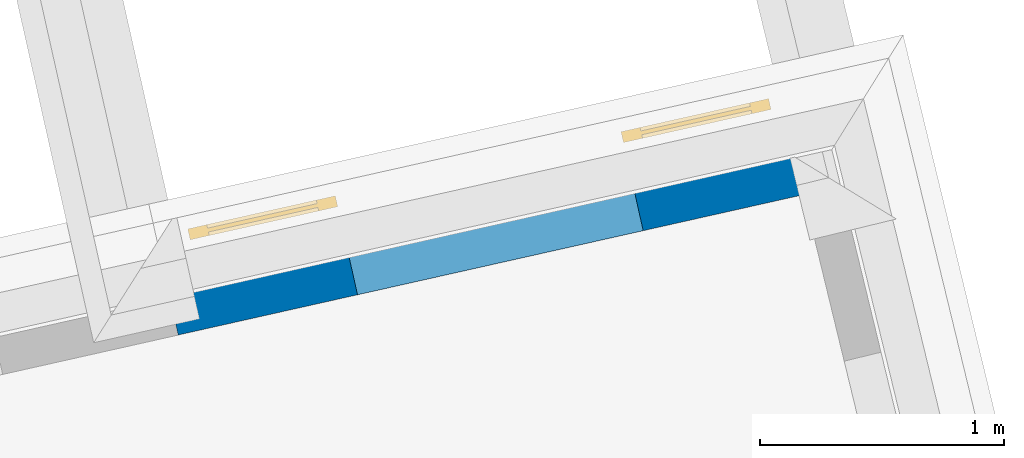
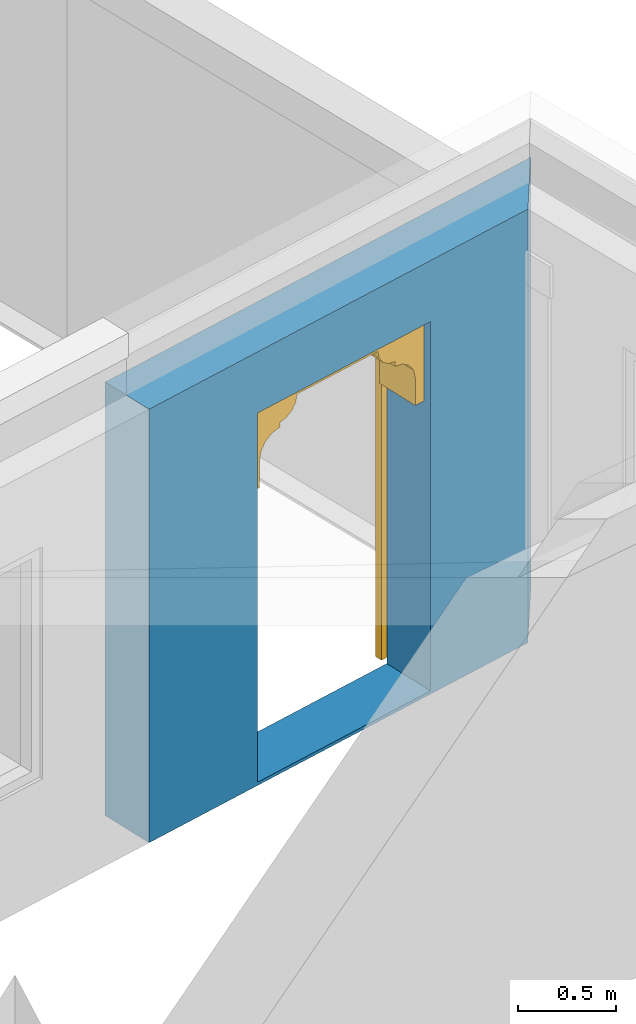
# One storey, part 7 of 15: 1 door, 1 wall, 1 opening.
"""IFC4 building model written with IfcOpenShell, lengths in metres."""

from ifc_helpers import new_model, si_unit, frame, origin, origin_with_axes, place, context, subcontext, project, spatial, polyline, outline, extrude, faceted_brep, source, transform, mapped, material, layer, layer_set, layer_usage, type_object, type_shapes, element, fill, save


model = new_model("IFC4")

# Units and contexts
model_context = context("Model", 3, world=origin_with_axes())
body_context = subcontext(model_context, "Body", "Model", "MODEL_VIEW")
ifc_project = project(units=[si_unit("PLANEANGLEUNIT", "RADIAN"), si_unit("MASSUNIT", "GRAM", prefix="KILO"), si_unit("FORCEUNIT", "NEWTON", prefix="KILO"), si_unit("LENGTHUNIT", "METRE"), si_unit("AREAUNIT", "SQUARE_METRE"), si_unit("VOLUMEUNIT", "CUBIC_METRE")], contexts=[model_context, model_context])

# Site, building, storey
site_placement = place(None, origin_with_axes())
site = spatial("IfcSite", under=ifc_project, at=site_placement, Name="Site plot-10", CompositionType="ELEMENT")
building_placement = place(None, origin_with_axes())
building = spatial("IfcBuilding", under=site, at=building_placement, Name="Building plot-10", CompositionType="ELEMENT")
storey_placement = place(None, frame((0.0, 0.0, 2.7), z_axis=(0.0, 0.0, 1.0), x_axis=(1.0, 0.0, 0.0)))
storey = spatial("IfcBuildingStorey", under=building, at=storey_placement, Name="plot-10 1", CompositionType="ELEMENT", Elevation=2.7)

# Wall, opening, door
ifc_material = material(Name="Masonry")
ifc_layer = layer(ifc_material, 0.33, ventilated=False)
ifc_layer_set = layer_set([ifc_layer], Name="exterior_0.08_0.25")
ifc_layer_usage = layer_usage(ifc_layer_set, "AXIS2", "POSITIVE", -0.25)
wall_type = type_object("IfcWallType", Name="exterior_0.08_0.25", PredefinedType="SOLIDWALL", material=ifc_layer_set)
wall_placement = place(storey_placement, frame((-15.1584362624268, 11.9639737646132, 0.0), z_axis=(0.0, 0.0, 1.0), x_axis=(-0.97574155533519, -0.218925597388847, 0.0)))
wall = element("IfcWall", 1, at=wall_placement, inside=storey, type_object=wall_type, material=ifc_layer_usage, Name="exterior", context=body_context, shape_type="SweptSolid", body=[
    extrude(outline(polyline([(0.078635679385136, 0.0800000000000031), (-0.245736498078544, -0.249999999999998), (2.7066355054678, -0.249999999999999), (2.7066355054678, 0.0800000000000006), (0.078635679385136, 0.0800000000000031)])), origin_with_axes(), (0.0, 0.0, 1.0), 2.7),
])
opening_placement = place(wall_placement, frame((0.7533177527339, 0.0, 0.02)))
opening = element("IfcOpeningElement", 2, at=opening_placement, cuts=wall, Name="My Opening", ObjectType="Opening", context=body_context, shape_type="SweptSolid", body=[
    extrude(outline(polyline([(0.0, -0.270000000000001), (1.2, -0.27), (1.2, 1.1), (7.7715611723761e-16, 1.1), (0.0, -0.270000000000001)])), origin_with_axes(), (0.0, 0.0, 1.0), 2.3),
])
door_type = type_object("IfcDoorType", Name="arch-1200x2300", OperationType="SINGLE_SWING_LEFT", PredefinedType="NOTDEFINED")
shared_shape = source(origin(), body_context, "Body", "Brep", [
    faceted_brep([(-0.08, -0.02, 0.08), (-0.08, -0.02, 0.0), (-0.54, -0.02, 0.0), (-0.54, -0.02, 0.08), (-0.62, -0.02, 0.0), (-0.62, -0.02, 0.08), (-0.54, -0.035, 0.08), (-0.08, -0.035, 0.08), (0.0, -0.02, 0.08), (0.0, -0.02, 0.0), (-0.08, -0.066, 0.0), (-0.54, -0.066, 0.0), (-0.62, -0.066, 0.0), (-0.62, -0.066, 0.08), (-0.54, -0.02, 0.743333), (-0.62, -0.02, 0.743333), (-0.54, -0.035, 0.743333), (-0.08, -0.035, 0.743333), (-0.08, -0.02, 0.743333), (0.0, -0.02, 0.743333), (0.0, -0.066, 0.08), (0.0, -0.066, 0.0), (-0.54, -0.066, 0.08), (-0.08, -0.066, 0.08), (-0.62, -0.066, 0.743333), (-0.54, -0.02, 0.823333), (-0.62, -0.02, 0.823333), (0.0, -0.066, 0.743333), (0.0, -0.02, 0.823333), (-0.08, -0.02, 0.823333), (-0.08, -0.051, 0.08), (-0.54, -0.051, 0.08), (-0.54, -0.066, 0.743333), (-0.62, -0.066, 0.823333), (-0.54, -0.02, 1.486667), (-0.62, -0.02, 1.486667), (0.0, -0.066, 0.823333), (-0.08, -0.066, 0.743333), (0.0, -0.02, 1.486667), (-0.08, -0.02, 1.486667), (-0.08, -0.051, 0.743333), (-0.54, -0.051, 0.743333), (-0.54, -0.066, 0.823333), (-0.62, -0.066, 1.486667), (-0.54, -0.035, 0.823333), (-0.08, -0.035, 0.823333), (-0.54, -0.035, 1.486667), (-0.54, -0.02, 1.566667), (-0.62, -0.02, 1.566667), (0.0, -0.066, 1.486667), (-0.08, -0.066, 0.823333), (-0.08, -0.035, 1.486667), (0.0, -0.02, 1.566667), (-0.08, -0.02, 1.566667), (-0.54, -0.066, 1.486667), (-0.62, -0.066, 1.566667), (-0.54, -0.02, 2.23), (-0.62, -0.02, 2.23), (0.0, -0.066, 1.566667), (-0.08, -0.066, 1.486667), (0.0, -0.02, 2.23), (-0.08, -0.02, 2.23), (-0.08, -0.051, 0.823333), (-0.54, -0.051, 0.823333), (-0.54, -0.051, 1.486667), (-0.54, -0.066, 1.566667), (-0.62, -0.066, 2.23), (-0.54, -0.035, 1.566667), (-0.08, -0.035, 1.566667), (-0.54, -0.035, 2.23), (-0.54, -0.02, 2.31), (-0.62, -0.02, 2.31), (0.0, -0.066, 2.23), (-0.08, -0.066, 1.566667), (-0.08, -0.051, 1.486667), (-0.08, -0.035, 2.23), (0.0, -0.02, 2.31), (-0.08, -0.02, 2.31), (-0.54, -0.066, 2.23), (-0.62, -0.066, 2.31), (-0.54, -0.066, 2.31), (0.0, -0.066, 2.31), (-0.08, -0.066, 2.23), (-0.08, -0.066, 2.31), (-0.08, -0.051, 1.566667), (-0.54, -0.051, 1.566667), (-0.54, -0.051, 2.23), (-0.08, -0.051, 2.23), (1.74, -0.02, 0.08), (1.74, -0.02, 0.0), (1.28, -0.02, 0.0), (1.28, -0.02, 0.08), (1.82, -0.02, 0.08), (1.82, -0.02, 0.0), (1.28, -0.035, 0.08), (1.74, -0.035, 0.08), (1.2, -0.02, 0.0), (1.2, -0.02, 0.08), (1.74, -0.066, 0.0), (1.28, -0.066, 0.0), (1.82, -0.066, 0.08), (1.82, -0.066, 0.0), (1.82, -0.02, 0.743333), (1.74, -0.02, 0.743333), (1.74, -0.035, 0.743333), (1.28, -0.035, 0.743333), (1.28, -0.02, 0.743333), (1.2, -0.02, 0.743333), (1.2, -0.066, 0.0), (1.2, -0.066, 0.08), (1.28, -0.066, 0.08), (1.74, -0.066, 0.08), (1.82, -0.066, 0.743333), (1.82, -0.02, 0.823333), (1.74, -0.02, 0.823333), (1.2, -0.066, 0.743333), (1.28, -0.02, 0.823333), (1.2, -0.02, 0.823333), (1.74, -0.051, 0.08), (1.28, -0.051, 0.08), (1.74, -0.066, 0.743333), (1.82, -0.066, 0.823333), (1.82, -0.02, 1.486667), (1.74, -0.02, 1.486667), (1.2, -0.066, 0.823333), (1.28, -0.066, 0.743333), (1.28, -0.02, 1.486667), (1.2, -0.02, 1.486667), (1.28, -0.051, 0.743333), (1.74, -0.051, 0.743333), (1.74, -0.066, 0.823333), (1.82, -0.066, 1.486667), (1.28, -0.035, 0.823333), (1.74, -0.035, 0.823333), (1.74, -0.035, 1.486667), (1.82, -0.02, 1.566667), (1.74, -0.02, 1.566667), (1.2, -0.066, 1.486667), (1.28, -0.066, 0.823333), (1.28, -0.035, 1.486667), (1.28, -0.02, 1.566667), (1.2, -0.02, 1.566667), (1.74, -0.066, 1.486667), (1.82, -0.066, 1.566667), (1.82, -0.02, 2.23), (1.74, -0.02, 2.23), (1.2, -0.066, 1.566667), (1.28, -0.066, 1.486667), (1.28, -0.02, 2.23), (1.2, -0.02, 2.23), (1.74, -0.051, 0.823333), (1.28, -0.051, 0.823333), (1.74, -0.051, 1.486667), (1.74, -0.066, 1.566667), (1.82, -0.066, 2.23), (1.28, -0.035, 1.566667), (1.74, -0.035, 1.566667), (1.74, -0.035, 2.23), (1.82, -0.02, 2.31), (1.74, -0.02, 2.31), (1.2, -0.066, 2.23), (1.28, -0.066, 1.566667), (1.28, -0.051, 1.486667), (1.28, -0.035, 2.23), (1.28, -0.02, 2.31), (1.2, -0.02, 2.31), (1.74, -0.066, 2.23), (1.82, -0.066, 2.31), (1.74, -0.066, 2.31), (1.2, -0.066, 2.31), (1.28, -0.066, 2.23), (1.28, -0.066, 2.31), (1.74, -0.051, 1.566667), (1.28, -0.051, 1.566667), (1.74, -0.051, 2.23), (1.28, -0.051, 2.23), (1.2, 0.03, 1.78), (1.2, 0.03, 1.95), (1.14, 0.03, 1.95), (1.14, 0.03, 1.78), (1.14, 0.3, 1.95), (1.14, 0.3, 1.78), (1.2, 0.03, 2.12), (1.129, 0.03, 2.004), (1.2, 0.3, 1.78), (1.2, 0.3, 1.95), (1.129, 0.3, 2.004), (1.099, 0.03, 2.049), (1.2, 0.3, 2.12), (1.099, 0.3, 2.049), (1.054, 0.03, 2.079), (1.2, 0.3, 2.29), (1.2, 0.03, 2.29), (1.054, 0.3, 2.079), (1.0, 0.03, 2.09), (1.0, 0.03, 2.12), (0.954, 0.03, 2.129), (0.88, 0.3, 2.29), (0.88, 0.03, 2.29), (1.0, 0.3, 2.12), (0.954, 0.3, 2.129), (1.0, 0.3, 2.09), (0.915, 0.03, 2.155), (0.889, 0.3, 2.194), (0.88, 0.3, 2.24), (0.88, 0.03, 2.24), (0.889, 0.03, 2.194), (0.915, 0.3, 2.155), (0.06, 0.03, 1.78), (0.06, 0.03, 1.95), (0.0, 0.03, 1.95), (0.0, 0.03, 1.78), (0.06, 0.3, 1.78), (0.06, 0.3, 1.95), (0.071, 0.03, 2.004), (0.0, 0.03, 2.12), (0.0, 0.3, 1.95), (0.0, 0.3, 1.78), (0.071, 0.3, 2.004), (0.101, 0.03, 2.049), (0.0, 0.3, 2.12), (0.101, 0.3, 2.049), (0.146, 0.03, 2.079), (0.0, 0.03, 2.29), (0.0, 0.3, 2.29), (0.146, 0.3, 2.079), (0.2, 0.03, 2.12), (0.2, 0.03, 2.09), (0.246, 0.03, 2.129), (0.32, 0.03, 2.29), (0.32, 0.3, 2.29), (0.246, 0.3, 2.129), (0.2, 0.3, 2.12), (0.2, 0.3, 2.09), (0.285, 0.03, 2.155), (0.32, 0.3, 2.24), (0.311, 0.3, 2.194), (0.311, 0.03, 2.194), (0.32, 0.03, 2.24), (0.285, 0.3, 2.155)], [[[0, 1, 2, 3]], [[4, 5, 3, 2]], [[0, 3, 6, 7]], [[1, 0, 8, 9]], [[2, 1, 10, 11]], [[5, 4, 12, 13]], [[14, 3, 5, 15]], [[4, 2, 11, 12]], [[3, 14, 16, 6]], [[6, 16, 17, 7]], [[18, 0, 7, 17]], [[0, 18, 19, 8]], [[9, 8, 20, 21]], [[1, 9, 21, 10]], [[22, 11, 10, 23]], [[13, 12, 11, 22]], [[15, 5, 13, 24]], [[25, 14, 15, 26]], [[14, 18, 17, 16]], [[8, 19, 27, 20]], [[28, 19, 18, 29]], [[23, 10, 21, 20]], [[22, 23, 30, 31]], [[22, 32, 24, 13]], [[26, 15, 24, 33]], [[29, 18, 14, 25]], [[34, 25, 26, 35]], [[19, 28, 36, 27]], [[20, 27, 37, 23]], [[38, 28, 29, 39]], [[23, 37, 40, 30]], [[41, 31, 30, 40]], [[32, 22, 31, 41]], [[32, 42, 33, 24]], [[35, 26, 33, 43]], [[29, 25, 44, 45]], [[25, 34, 46, 44]], [[47, 34, 35, 48]], [[28, 38, 49, 36]], [[27, 36, 50, 37]], [[39, 29, 45, 51]], [[52, 38, 39, 53]], [[37, 32, 41, 40]], [[37, 50, 42, 32]], [[42, 54, 43, 33]], [[48, 35, 43, 55]], [[44, 46, 51, 45]], [[34, 39, 51, 46]], [[34, 47, 53, 39]], [[56, 47, 48, 57]], [[38, 52, 58, 49]], [[36, 49, 59, 50]], [[60, 52, 53, 61]], [[42, 50, 62, 63]], [[54, 42, 63, 64]], [[54, 65, 55, 43]], [[57, 48, 55, 66]], [[53, 47, 67, 68]], [[47, 56, 69, 67]], [[70, 56, 57, 71]], [[52, 60, 72, 58]], [[49, 58, 73, 59]], [[50, 59, 74, 62]], [[61, 53, 68, 75]], [[76, 60, 61, 77]], [[64, 63, 62, 74]], [[59, 54, 64, 74]], [[65, 54, 59, 73]], [[65, 78, 66, 55]], [[71, 57, 66, 79]], [[67, 69, 75, 68]], [[56, 61, 75, 69]], [[77, 61, 56, 70]], [[70, 71, 79, 80]], [[60, 76, 81, 72]], [[58, 72, 82, 73]], [[76, 77, 83, 81]], [[65, 73, 84, 85]], [[78, 65, 85, 86]], [[78, 80, 79, 66]], [[77, 70, 80, 83]], [[72, 81, 83, 82]], [[73, 82, 87, 84]], [[86, 85, 84, 87]], [[82, 78, 86, 87]], [[82, 83, 80, 78]], [[88, 89, 90, 91]], [[89, 88, 92, 93]], [[94, 95, 88, 91]], [[96, 97, 91, 90]], [[98, 99, 90, 89]], [[100, 101, 93, 92]], [[102, 92, 88, 103]], [[101, 98, 89, 93]], [[95, 104, 103, 88]], [[94, 105, 104, 95]], [[105, 94, 91, 106]], [[97, 107, 106, 91]], [[108, 109, 97, 96]], [[99, 108, 96, 90]], [[110, 99, 98, 111]], [[111, 98, 101, 100]], [[112, 100, 92, 102]], [[113, 102, 103, 114]], [[104, 105, 106, 103]], [[109, 115, 107, 97]], [[116, 106, 107, 117]], [[109, 108, 99, 110]], [[118, 119, 110, 111]], [[100, 112, 120, 111]], [[121, 112, 102, 113]], [[114, 103, 106, 116]], [[122, 113, 114, 123]], [[115, 124, 117, 107]], [[110, 125, 115, 109]], [[126, 116, 117, 127]], [[119, 128, 125, 110]], [[128, 119, 118, 129]], [[129, 118, 111, 120]], [[112, 121, 130, 120]], [[131, 121, 113, 122]], [[132, 133, 114, 116]], [[133, 134, 123, 114]], [[135, 122, 123, 136]], [[124, 137, 127, 117]], [[125, 138, 124, 115]], [[139, 132, 116, 126]], [[140, 126, 127, 141]], [[128, 129, 120, 125]], [[120, 130, 138, 125]], [[121, 131, 142, 130]], [[143, 131, 122, 135]], [[132, 139, 134, 133]], [[134, 139, 126, 123]], [[126, 140, 136, 123]], [[144, 135, 136, 145]], [[137, 146, 141, 127]], [[138, 147, 137, 124]], [[148, 140, 141, 149]], [[150, 151, 138, 130]], [[152, 150, 130, 142]], [[131, 143, 153, 142]], [[154, 143, 135, 144]], [[155, 156, 136, 140]], [[156, 157, 145, 136]], [[158, 144, 145, 159]], [[146, 160, 149, 141]], [[147, 161, 146, 137]], [[151, 162, 147, 138]], [[163, 155, 140, 148]], [[164, 148, 149, 165]], [[162, 151, 150, 152]], [[162, 152, 142, 147]], [[161, 147, 142, 153]], [[143, 154, 166, 153]], [[167, 154, 144, 158]], [[155, 163, 157, 156]], [[157, 163, 148, 145]], [[159, 145, 148, 164]], [[168, 167, 158, 159]], [[160, 169, 165, 149]], [[161, 170, 160, 146]], [[169, 171, 164, 165]], [[172, 173, 161, 153]], [[174, 172, 153, 166]], [[154, 167, 168, 166]], [[171, 168, 159, 164]], [[170, 171, 169, 160]], [[173, 175, 170, 161]], [[175, 173, 172, 174]], [[175, 174, 166, 170]], [[166, 168, 171, 170]], [[176, 177, 178, 179]], [[180, 181, 179, 178]], [[177, 182, 183, 178]], [[177, 176, 184, 185]], [[181, 184, 176, 179]], [[181, 180, 185, 184]], [[186, 180, 178, 183]], [[182, 187, 183]], [[182, 177, 185, 188]], [[180, 186, 188, 185]], [[189, 186, 183, 187]], [[182, 190, 187]], [[188, 191, 192, 182]], [[188, 186, 189]], [[193, 189, 187, 190]], [[194, 190, 182, 195]], [[182, 192, 196, 195]], [[192, 191, 197, 198]], [[199, 200, 191, 188]], [[188, 189, 193]], [[201, 193, 190, 194]], [[199, 201, 194, 195]], [[200, 199, 195, 196]], [[192, 202, 196]], [[191, 203, 204, 197]], [[192, 198, 205, 206]], [[207, 191, 200]], [[199, 188, 193, 201]], [[207, 200, 196, 202]], [[192, 206, 202]], [[204, 203, 206, 205]], [[203, 191, 207]], [[203, 207, 202, 206]], [[208, 209, 210, 211]], [[209, 208, 212, 213]], [[209, 214, 215, 210]], [[211, 210, 216, 217]], [[208, 211, 217, 212]], [[217, 216, 213, 212]], [[214, 209, 213, 218]], [[214, 219, 215]], [[220, 216, 210, 215]], [[216, 220, 218, 213]], [[219, 214, 218, 221]], [[219, 222, 215]], [[215, 223, 224, 220]], [[221, 218, 220]], [[222, 219, 221, 225]], [[226, 215, 222, 227]], [[226, 228, 223, 215]], [[229, 230, 224, 223]], [[220, 224, 231, 232]], [[225, 221, 220]], [[227, 222, 225, 233]], [[226, 227, 233, 232]], [[228, 226, 232, 231]], [[228, 234, 223]], [[230, 235, 236, 224]], [[237, 238, 229, 223]], [[231, 224, 239]], [[233, 225, 220, 232]], [[234, 228, 231, 239]], [[234, 237, 223]], [[238, 237, 236, 235]], [[239, 224, 236]], [[237, 234, 239, 236]], [[238, 235, 204, 205]], [[235, 230, 197, 204]], [[229, 238, 205, 198]], [[230, 229, 198, 197]]]),
])
type_shapes(door_type, [shared_shape])
door_placement = place(storey_placement, frame((-15.952589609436, 12.0625034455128, 0.02), z_axis=(0.0, 0.0, 1.0), x_axis=(-1.17088986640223, -0.262710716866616, 0.0)))
door = element("IfcDoor", 3, at=door_placement, inside=storey, type_object=door_type, Name="circulation sahn door", OverallHeight=2.3, OverallWidth=1.2, context=body_context, shape_type="MappedRepresentation", body=[
    mapped(shared_shape, transform((0.0, 0.0, 0.0), scale=1.0)),
])
fill(opening, door)

save(model, "model.ifc")
